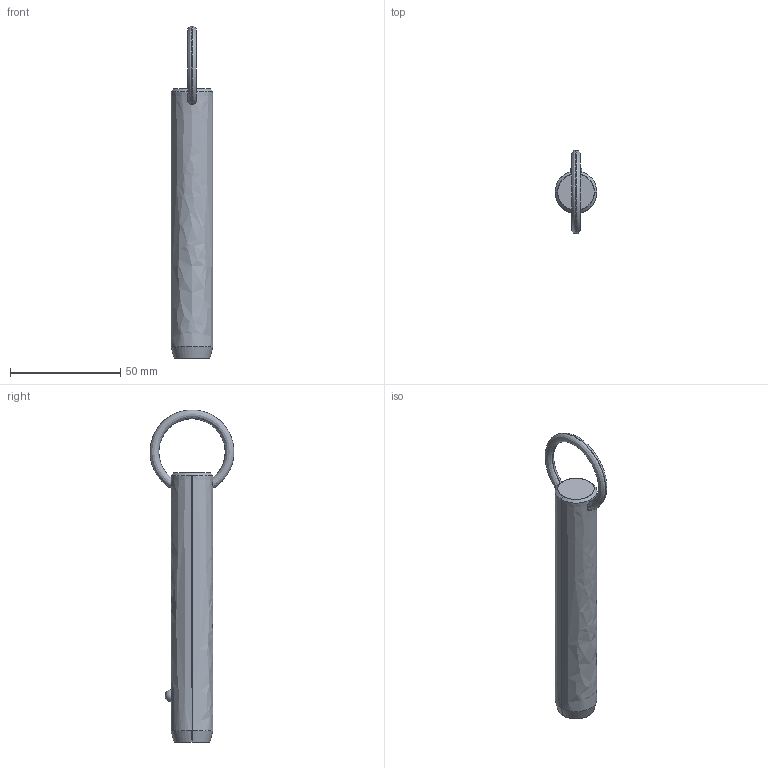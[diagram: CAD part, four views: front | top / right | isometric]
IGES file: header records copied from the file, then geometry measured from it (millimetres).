
Start section: SolidWorks IGES file using analytic representation for surfaces
Global section: file name: C:\Users\liam_\OneDrive\Documents\WORK\Work for WixRoyd\Job Files\J-00019 - Matt Davis CAD Checking\04. CAD Drawings\automotion20190605\P1250.2_v2\P1250.2_v2_20190729_IGES\P1250.075-350.igs; native system: SolidWorks 2017; preprocessor: SolidWorks 2017; author: liam_; date: 190729.235243; units: millimetre
Bounding box: 19 x 38.1 x 150.69 mm (x, y, z)
Surface area: 8821 mm2 (no closed solid volume)
Topology: 0 solids, 0 shells, 12 faces, 294 edges, 292 vertices
Faces by surface type: revolution 8, bspline 4
